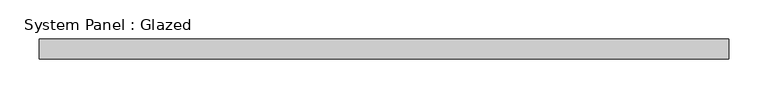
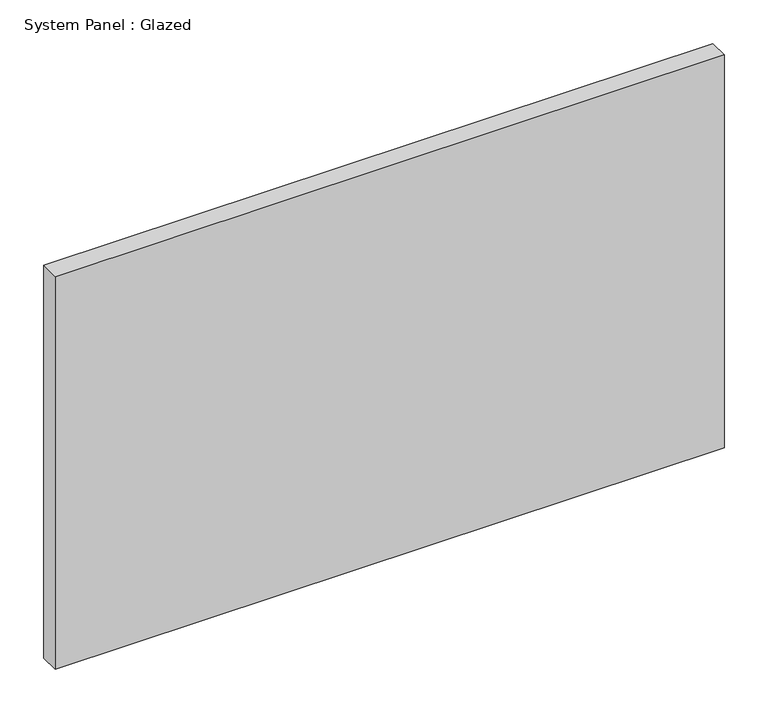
"""IFC4 building model written with IfcOpenShell, lengths in millimetres: plate geometry, System Panel : Glazed."""

import ifcopenshell
import ifcopenshell.guid

model = None  # the IFC model being written
_history = None  # IfcOwnerHistory: only IFC2X3 demands one
_inside = {}  # id of a spatial element -> (the spatial element, [elements in it])
_under = {}  # id of a project, library or spatial element -> (it, [spatial elements below it])
_declared = {}  # id of a project -> (the project, [libraries it declares])
_typed = {}  # id of a type object -> (the type object, [elements of that type])
_made_of = {}  # id of a material, layer set ... -> (it, [elements and type objects made of it])


def new_model(schema):
    """Start an empty IFC model of exactly this schema.

    Asked for "IFC4X3", IfcOpenShell would pick the latest addendum, in which some entities
    have other attributes; the version numbers below select the first issue.
    IFC2X3 requires an IfcOwnerHistory on every rooted entity: one is made here for all.
    """
    global model, _history
    if schema == "IFC4X3":
        model = ifcopenshell.file(schema_version=(4, 3, 0, 0))
    else:
        model = ifcopenshell.file(schema=schema)
    _inside.clear()
    _under.clear()
    _declared.clear()
    _typed.clear()
    _made_of.clear()
    _history = None
    if model.schema == "IFC2X3":
        org = make("IfcOrganization", Name="unknown")
        user = make(
            "IfcPersonAndOrganization",
            ThePerson=make("IfcPerson", FamilyName="unknown"),
            TheOrganization=org,
        )
        app = make(
            "IfcApplication",
            ApplicationDeveloper=org,
            Version="unknown",
            ApplicationFullName="unknown",
            ApplicationIdentifier="unknown",
        )
        _history = make(
            "IfcOwnerHistory",
            OwningUser=user,
            OwningApplication=app,
            ChangeAction="ADDED",
            CreationDate=0,
        )
    return model


def make(cls, **values):
    """One entity of the class cls with the attributes given. An attribute that is None is left unset."""
    return model.create_entity(
        cls, **{name: value for name, value in values.items() if value is not None}
    )


def rooted(cls, **values):
    """An entity with a GlobalId (a new one), such as an element, a storey or a relation."""
    return make(cls, GlobalId=ifcopenshell.guid.new(), OwnerHistory=_history, **values)


def si_unit(unit_type, name, prefix=None):
    """IfcSIUnit, for example si_unit("LENGTHUNIT", "METRE", prefix="MILLI")."""
    return make("IfcSIUnit", UnitType=unit_type, Prefix=prefix, Name=name)


def assignment(units):
    """IfcUnitAssignment: the units of a project."""
    return None if units is None else make("IfcUnitAssignment", Units=units)


def point(xyz):
    """IfcCartesianPoint."""
    return None if xyz is None else make("IfcCartesianPoint", Coordinates=xyz)


def direction(xyz):
    """IfcDirection."""
    return None if xyz is None else make("IfcDirection", DirectionRatios=xyz)


def frame(location, z_axis=None, x_axis=None):
    """IfcAxis2Placement3D, a coordinate frame: its origin and axes. An axis left out is left unset."""
    return make(
        "IfcAxis2Placement3D",
        Location=point(location),
        Axis=direction(z_axis),
        RefDirection=direction(x_axis),
    )


def origin():
    """The frame at (0, 0, 0) with its axes left unset."""
    return frame((0.0, 0.0, 0.0))


def origin_with_axes():
    """The frame at (0, 0, 0) with the z axis (0, 0, 1) and the x axis (1, 0, 0) written out."""
    return frame((0.0, 0.0, 0.0), z_axis=(0.0, 0.0, 1.0), x_axis=(1.0, 0.0, 0.0))


def place(relative_to, where):
    """IfcLocalPlacement: puts the frame where relative to a parent placement (None: the world)."""
    return make(
        "IfcLocalPlacement", PlacementRelTo=relative_to, RelativePlacement=where
    )


def context(
    kind, dimensions, precision=None, world=None, true_north=None, identifier=None
):
    """IfcGeometricRepresentationContext, for example the 3D "Model" context."""
    return make(
        "IfcGeometricRepresentationContext",
        ContextIdentifier=identifier,
        ContextType=kind,
        CoordinateSpaceDimension=dimensions,
        Precision=precision,
        WorldCoordinateSystem=world,
        TrueNorth=true_north,
    )


def project(units=None, contexts=None):
    """IfcProject with its units and contexts."""
    return rooted(
        "IfcProject",
        Name="project",
        RepresentationContexts=contexts,
        UnitsInContext=assignment(units),
    )


def spatial(cls, under=None, at=None, **own):
    """A site, building, storey or space (cls), placed at a placement, below another one or the project."""
    s = rooted(cls, ObjectPlacement=at, **own)
    if under is not None:
        _under.setdefault(under.id(), (under, []))[1].append(s)
    return s


def polyline(points):
    """IfcPolyline through the points."""
    return make("IfcPolyline", Points=[point(p) for p in points])


def outline(outer, holes=None, kind="AREA"):
    """IfcArbitraryClosedProfileDef: a profile drawn as a closed curve; with holes, ...WithVoids."""
    if holes is None:
        return make("IfcArbitraryClosedProfileDef", ProfileType=kind, OuterCurve=outer)
    return make(
        "IfcArbitraryProfileDefWithVoids",
        ProfileType=kind,
        OuterCurve=outer,
        InnerCurves=holes,
    )


def extrude(swept, where, along, depth):
    """IfcExtrudedAreaSolid: the profile swept, set in the frame where, extruded along a direction by depth."""
    return make(
        "IfcExtrudedAreaSolid",
        SweptArea=swept,
        Position=where,
        ExtrudedDirection=direction(along),
        Depth=depth,
    )


def shape(context_of_items, identifier, shape_type, items):
    """IfcShapeRepresentation: the items that make up one representation, for example the "Body"."""
    return make(
        "IfcShapeRepresentation",
        ContextOfItems=context_of_items,
        RepresentationIdentifier=identifier,
        RepresentationType=shape_type,
        Items=items,
    )


def source(mapping_origin, context_of_items, identifier, shape_type, items):
    """IfcRepresentationMap: a shape defined once, which mapped items show again and again."""
    return make(
        "IfcRepresentationMap",
        MappingOrigin=mapping_origin,
        MappedRepresentation=shape(context_of_items, identifier, shape_type, items),
    )


def transform(
    local_origin,
    x_axis=None,
    y_axis=None,
    z_axis=None,
    scale=None,
    scale2=None,
    scale3=None,
    uniform=True,
):
    """IfcCartesianTransformationOperator3D, or its non-uniform kind. x_axis, y_axis, z_axis: its Axis1, 2, 3."""
    if uniform:
        return make(
            "IfcCartesianTransformationOperator3D",
            Axis1=direction(x_axis),
            Axis2=direction(y_axis),
            LocalOrigin=point(local_origin),
            Scale=scale,
            Axis3=direction(z_axis),
        )
    return make(
        "IfcCartesianTransformationOperator3DnonUniform",
        Axis1=direction(x_axis),
        Axis2=direction(y_axis),
        LocalOrigin=point(local_origin),
        Scale=scale,
        Axis3=direction(z_axis),
        Scale2=scale2,
        Scale3=scale3,
    )


def mapped(mapping_source, mapping_target):
    """IfcMappedItem: shows the shape of a source again, moved by a transform."""
    return make(
        "IfcMappedItem", MappingSource=mapping_source, MappingTarget=mapping_target
    )


def made_of(thing, what):
    """Note that an element or type object is made of a material, layer set ...; save() writes the relation."""
    if what is not None:
        _made_of.setdefault(what.id(), (what, []))[1].append(thing)
    return thing


def element(
    cls,
    number,
    at=None,
    inside=None,
    cuts=None,
    type_object=None,
    material=None,
    context=None,
    identifier="Body",
    shape_type=None,
    held_by="IfcProductDefinitionShape",
    body=None,
    shapes=None,
    **own,
):
    """One element of the class cls, such as IfcWall. Its Tag is "e" and its number.

    at: its placement. inside: the storey or other place that contains it. cuts: it is an
    opening in that element (IfcRelVoidsElement). A single representation is given by context,
    identifier, shape_type and body (its items); several are given by shapes. held_by: the class
    of the entity that holds the representations. save() writes the other relations.
    """
    e = rooted(cls, Tag="e%d" % number, ObjectPlacement=at, **own)
    if body is not None:
        shapes = [shape(context, identifier, shape_type, body)]
    if shapes is not None:
        e.Representation = make(held_by, Representations=shapes)
    if inside is not None:
        _inside.setdefault(inside.id(), (inside, []))[1].append(e)
    if cuts is not None:
        rooted(
            "IfcRelVoidsElement", RelatingBuildingElement=cuts, RelatedOpeningElement=e
        )
    if type_object is not None:
        _typed.setdefault(type_object.id(), (type_object, []))[1].append(e)
    return made_of(e, material)


def aggregate(whole, parts):
    """IfcRelAggregates: a whole, such as a stair, and the parts it consists of."""
    return rooted("IfcRelAggregates", RelatingObject=whole, RelatedObjects=parts)


def save(model, path):
    """Write the relations noted so far, then the file.

    IfcRelAggregates (storeys below a building ...), IfcRelContainedInSpatialStructure (elements
    in a storey), IfcRelDefinesByType, IfcRelAssociatesMaterial and IfcRelDeclares: one each for
    every whole, place, type object, material and project.
    """
    for whole, parts in _under.values():
        aggregate(whole, parts)
    for where, things in _inside.values():
        rooted(
            "IfcRelContainedInSpatialStructure",
            RelatedElements=things,
            RelatingStructure=where,
        )
    for kind, things in _typed.values():
        rooted("IfcRelDefinesByType", RelatedObjects=things, RelatingType=kind)
    for what, things in _made_of.values():
        rooted("IfcRelAssociatesMaterial", RelatedObjects=things, RelatingMaterial=what)
    for by, libraries in _declared.values():
        rooted("IfcRelDeclares", RelatingContext=by, RelatedDefinitions=libraries)
    model.write(path)


def system_panel_glazed_8ef25f1c(model_context):
    return source(origin(), model_context, "Body", "SweptSolid", [
        extrude(outline(polyline([(440.1829802, 19.05), (-440.1829802, 19.05), (-440.1829802, 44.45), (440.1829802, 44.45), (440.1829802, 19.05)])), origin_with_axes(), (0.0, 0.0, 1.0), 546.1),
    ])


if __name__ == "__main__":
    model = new_model("IFC4")
    model_context = context("Model", 3, world=origin())
    ifc_project = project(units=[si_unit("LENGTHUNIT", "METRE", prefix="MILLI")], contexts=[model_context])
    site = spatial("IfcSite", under=ifc_project)
    building = spatial("IfcBuilding", under=site)
    placement = place(None, origin())
    system_panel_glazed_shape = system_panel_glazed_8ef25f1c(model_context)
    element("IfcPlate", 1, ObjectType="System Panel : Glazed", at=placement, inside=building, context=model_context, shape_type="MappedRepresentation", body=[
        mapped(system_panel_glazed_shape, transform((0.0, 0.0, 0.0), x_axis=(1.0, 0.0, 0.0), y_axis=(0.0, 1.0, 0.0), z_axis=(0.0, 0.0, 1.0))),
    ])
    save(model, "model.ifc")
